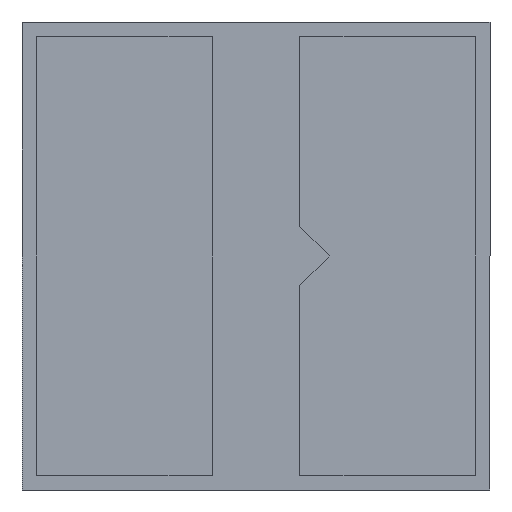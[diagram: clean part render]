
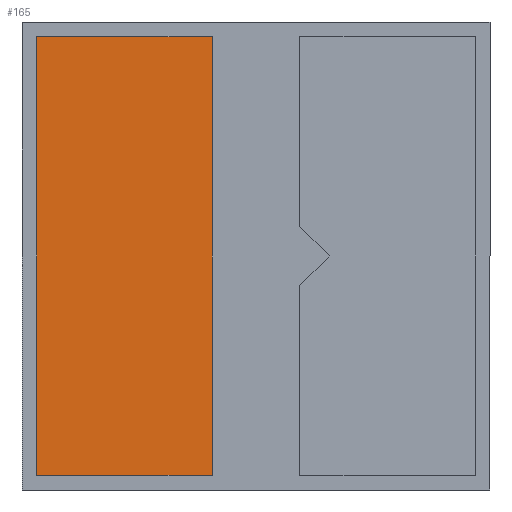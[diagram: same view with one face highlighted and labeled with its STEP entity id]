
A CAD part, front view. The second image highlights one B-rep face of the part: STEP entity #165.
In plain terms, the highlighted planar face has unit normal (0, -1, 0).
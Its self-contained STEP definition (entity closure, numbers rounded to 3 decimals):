
#7 = VERTEX_POINT ( 'NONE', #843 ) ;
#21 = VERTEX_POINT ( 'NONE', #990 ) ;
#49 = ORIENTED_EDGE ( 'NONE', *, *, #449, .T. ) ;
#112 = PLANE ( 'NONE',  #547 ) ;
#115 = DIRECTION ( 'NONE',  ( 0., 0., -1. ) ) ;
#116 = CARTESIAN_POINT ( 'NONE',  ( 0., -0.05, 0. ) ) ;
#139 = ORIENTED_EDGE ( 'NONE', *, *, #890, .T. ) ;
#165 = ADVANCED_FACE ( 'NONE', ( #373 ), #112, .T. ) ;
#182 = ORIENTED_EDGE ( 'NONE', *, *, #667, .T. ) ;
#190 = CARTESIAN_POINT ( 'NONE',  ( -0.75, -0.05, 0.75 ) ) ;
#228 = VECTOR ( 'NONE', #115, 1000. ) ;
#254 = VECTOR ( 'NONE', #752, 1000. ) ;
#255 = ORIENTED_EDGE ( 'NONE', *, *, #500, .T. ) ;
#296 = EDGE_LOOP ( 'NONE', ( #139, #255, #182, #49 ) ) ;
#304 = VERTEX_POINT ( 'NONE', #1038 ) ;
#341 = CARTESIAN_POINT ( 'NONE',  ( -0.15, -0.05, 0.75 ) ) ;
#342 = VERTEX_POINT ( 'NONE', #873 ) ;
#373 = FACE_OUTER_BOUND ( 'NONE', #296, .T. ) ;
#380 = DIRECTION ( 'NONE',  ( 1., 0., 0. ) ) ;
#449 = EDGE_CURVE ( 'NONE', #7, #21, #936, .T. ) ;
#456 = LINE ( 'NONE', #341, #489 ) ;
#459 = LINE ( 'NONE', #827, #254 ) ;
#489 = VECTOR ( 'NONE', #919, 1000. ) ;
#500 = EDGE_CURVE ( 'NONE', #304, #342, #459, .T. ) ;
#547 = AXIS2_PLACEMENT_3D ( 'NONE', #116, #1023, #856 ) ;
#667 = EDGE_CURVE ( 'NONE', #342, #7, #1003, .T. ) ;
#752 = DIRECTION ( 'NONE',  ( -1., 0., 0. ) ) ;
#812 = CARTESIAN_POINT ( 'NONE',  ( -0.75, -0.05, -0.75 ) ) ;
#827 = CARTESIAN_POINT ( 'NONE',  ( -0.15, -0.05, 0.75 ) ) ;
#843 = CARTESIAN_POINT ( 'NONE',  ( -0.75, -0.05, -0.75 ) ) ;
#856 = DIRECTION ( 'NONE',  ( 0., 0., -1. ) ) ;
#873 = CARTESIAN_POINT ( 'NONE',  ( -0.75, -0.05, 0.75 ) ) ;
#890 = EDGE_CURVE ( 'NONE', #21, #304, #456, .T. ) ;
#919 = DIRECTION ( 'NONE',  ( 0., 0., 1. ) ) ;
#936 = LINE ( 'NONE', #812, #1050 ) ;
#990 = CARTESIAN_POINT ( 'NONE',  ( -0.15, -0.05, -0.75 ) ) ;
#1003 = LINE ( 'NONE', #190, #228 ) ;
#1023 = DIRECTION ( 'NONE',  ( 0., -1., 0. ) ) ;
#1038 = CARTESIAN_POINT ( 'NONE',  ( -0.15, -0.05, 0.75 ) ) ;
#1050 = VECTOR ( 'NONE', #380, 1000. ) ;
